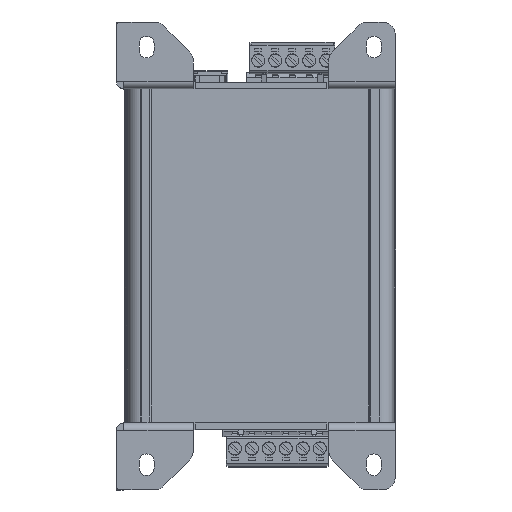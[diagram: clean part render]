
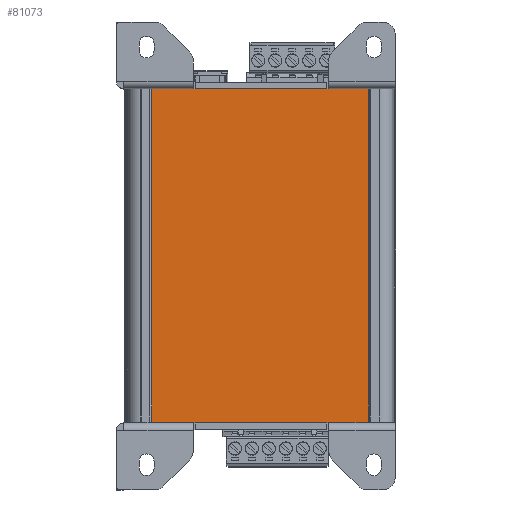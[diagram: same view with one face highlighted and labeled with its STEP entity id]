
A CAD part, top view. The second image highlights one B-rep face of the part: STEP entity #81073.
In plain terms, the highlighted planar face has unit normal (0, 0, 1).
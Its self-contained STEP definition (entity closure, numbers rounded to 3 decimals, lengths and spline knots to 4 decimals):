
#6772=PLANE('',#87065);
#15138=LINE('',#131178,#23953);
#15141=LINE('',#131190,#23956);
#15162=LINE('',#131234,#23977);
#15163=LINE('',#131235,#23978);
#23953=VECTOR('',#106708,3.937);
#23956=VECTOR('',#106719,3.937);
#23977=VECTOR('',#106770,2.5591);
#23978=VECTOR('',#106771,2.5591);
#28829=FACE_OUTER_BOUND('',#32941,.T.);
#32941=EDGE_LOOP('',(#74980,#74981,#74982,#74983));
#42843=VERTEX_POINT('',#131174);
#42845=VERTEX_POINT('',#131177);
#42848=VERTEX_POINT('',#131184);
#42850=VERTEX_POINT('',#131188);
#53745=EDGE_CURVE('',#42845,#42843,#15138,.T.);
#53751=EDGE_CURVE('',#42848,#42850,#15141,.T.);
#53776=EDGE_CURVE('',#42843,#42848,#15162,.T.);
#53777=EDGE_CURVE('',#42845,#42850,#15163,.T.);
#74980=ORIENTED_EDGE('',*,*,#53776,.T.);
#74981=ORIENTED_EDGE('',*,*,#53751,.T.);
#74982=ORIENTED_EDGE('',*,*,#53777,.F.);
#74983=ORIENTED_EDGE('',*,*,#53745,.T.);
#81073=ADVANCED_FACE('',(#28829),#6772,.T.);
#87065=AXIS2_PLACEMENT_3D('',#131233,#106768,#106769);
#106708=DIRECTION('',(0.,1.,0.));
#106719=DIRECTION('',(0.,-1.,0.));
#106768=DIRECTION('center_axis',(0.,0.,1.));
#106769=DIRECTION('ref_axis',(1.,0.,0.));
#106770=DIRECTION('',(-1.,0.,0.));
#106771=DIRECTION('',(-1.,0.,0.));
#131174=CARTESIAN_POINT('',(1.2795,1.9685,0.9606));
#131177=CARTESIAN_POINT('',(1.2795,-1.9685,0.9606));
#131178=CARTESIAN_POINT('',(1.2795,-1.9685,0.9606));
#131184=CARTESIAN_POINT('',(-1.2795,1.9685,0.9606));
#131188=CARTESIAN_POINT('',(-1.2795,-1.9685,0.9606));
#131190=CARTESIAN_POINT('',(-1.2795,1.9685,0.9606));
#131233=CARTESIAN_POINT('Origin',(1.2894,1.9685,0.9606));
#131234=CARTESIAN_POINT('',(1.2795,1.9685,0.9606));
#131235=CARTESIAN_POINT('',(1.2795,-1.9685,0.9606));
